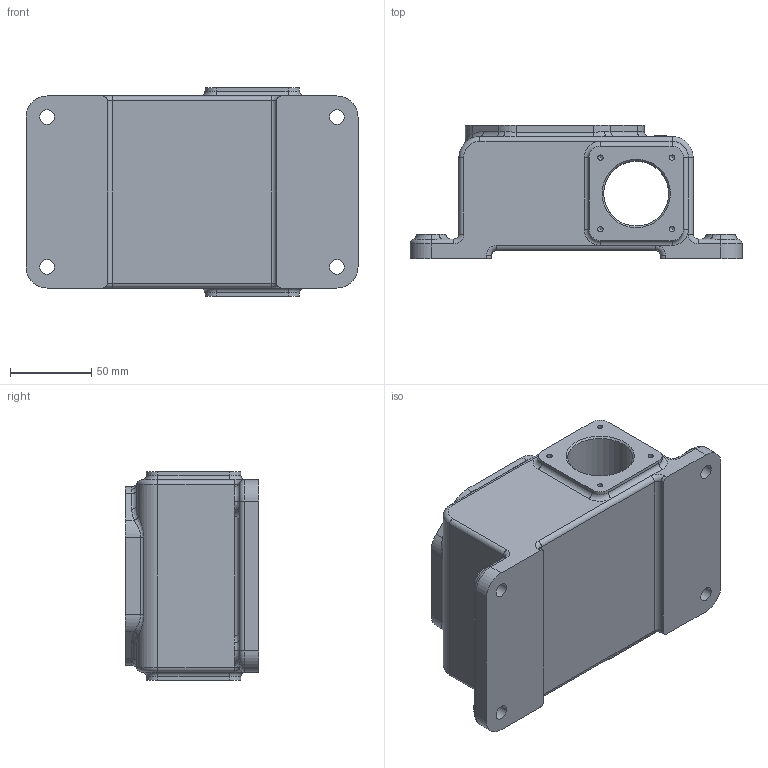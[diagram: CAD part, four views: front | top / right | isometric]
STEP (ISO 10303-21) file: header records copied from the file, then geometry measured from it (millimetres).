
FILE_DESCRIPTION(/* description */ (''),/* implementation_level */ '2;1');
FILE_NAME(/* name */ '',/* time_stamp */ '2026-07-02T16:38:52+09:00',/* author */ ('jhkim'),/* organization */ (''),/* preprocessor_version */ 'ST-DEVELOPER v20.1',/* originating_system */ 'Autodesk Inventor 2027',/* authorisation */ '');
FILE_SCHEMA (('AUTOMOTIVE_DESIGN { 1 0 10303 214 3 1 1 }'));
Length unit declared in the file: millimetre
Products named in the file (1): 본체
Bounding box: 204 x 82 x 128 mm (x, y, z)
Volume: 863747.7 mm3; surface area: 120273 mm2
Topology: 1 solids, 1 shells, 397 faces, 1006 edges, 631 vertices
Faces by surface type: plane 162, bspline 92, cylinder 84, torus 42, cone 17
Full cylindrical faces by diameter (mm): 3.242 x8, 4.134 x4, 9 x4, 40 x2, 86 x1, 90 x1
Entity records: 12514 total; most frequent: CARTESIAN_POINT 3396, ORIENTED_EDGE 1988, DIRECTION 1671, EDGE_CURVE 994, VERTEX_POINT 631, LINE 563, VECTOR 563, AXIS2_PLACEMENT_3D 554
